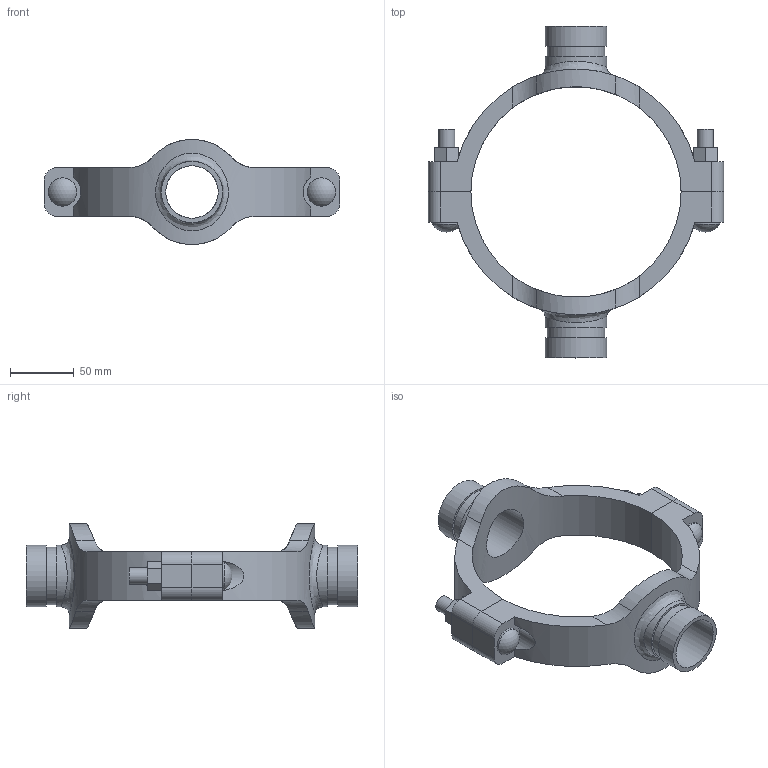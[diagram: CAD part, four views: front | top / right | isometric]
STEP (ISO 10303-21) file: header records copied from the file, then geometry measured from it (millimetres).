
FILE_DESCRIPTION(/* description */ ('VIC MECH-T BRANCH OUTLET CROSS STYLE 920N (GRVD)','CAx-IF Rec.Pracs.---Representation and Presentation of Product Manufacturing Information (PMI)---4.0---2014-10-13'),/* implementation_level */ '2;1');
FILE_NAME(/* name */ 'C:\Users\Vjadhav\AppData\Roaming\Autodesk\ApplicationPlugins\Back Up\Victaulic_IPS_Mechanical-Cross Outlet_Style 920N (OGS)\Victaulic_IPS_Mechanical-Cross Outlet_06.0 (165.1)x01.5x01.5 (150x40x40).stp',/* time_stamp */ '2020-08-06T19:45:06+05:00',/* author */ ('Vjadhav'),/* organization */ ('Victaulic'),/* preprocessor_version */ 'ST-DEVELOPER v17.2',/* originating_system */ 'Autodesk Inventor 2019',/* authorisation */ '');
FILE_SCHEMA (('AP242_MANAGED_MODEL_BASED_3D_ENGINEERING_MIM_LF { 1 0 10303 442 1 1 4 }'));
Length unit declared in the file: inch
Products named in the file (3): 920NG-06.0 (165.1)x01.5x01.5; 920NG-06.0 (165.1)x01.5; 920NG-06.0 (165.1)x01.5_1
Assembly tree (2 placements, depth 2):
  920NG-06.0 (165.1)x01.5x01.5
    920NG-06.0 (165.1)x01.5
    920NG-06.0 (165.1)x01.5_1
Bounding box: 231.9 x 260.6 x 82.42 mm (x, y, z)
Volume: 428788.9 mm3; surface area: 111088.6 mm2
Topology: 2 solids, 2 shells, 108 faces, 274 edges, 186 vertices
Faces by surface type: plane 54, cylinder 50, sphere 2, bspline 2
Full cylindrical faces by diameter (mm): 12.7 x4, 22.225 x2, 41.275 x2, 45.085 x2, 48.26 x4
Entity records: 4358 total; most frequent: CARTESIAN_POINT 1477, DIRECTION 552, ORIENTED_EDGE 548, EDGE_CURVE 274, AXIS2_PLACEMENT_3D 201, VERTEX_POINT 186, LINE 150, VECTOR 150
